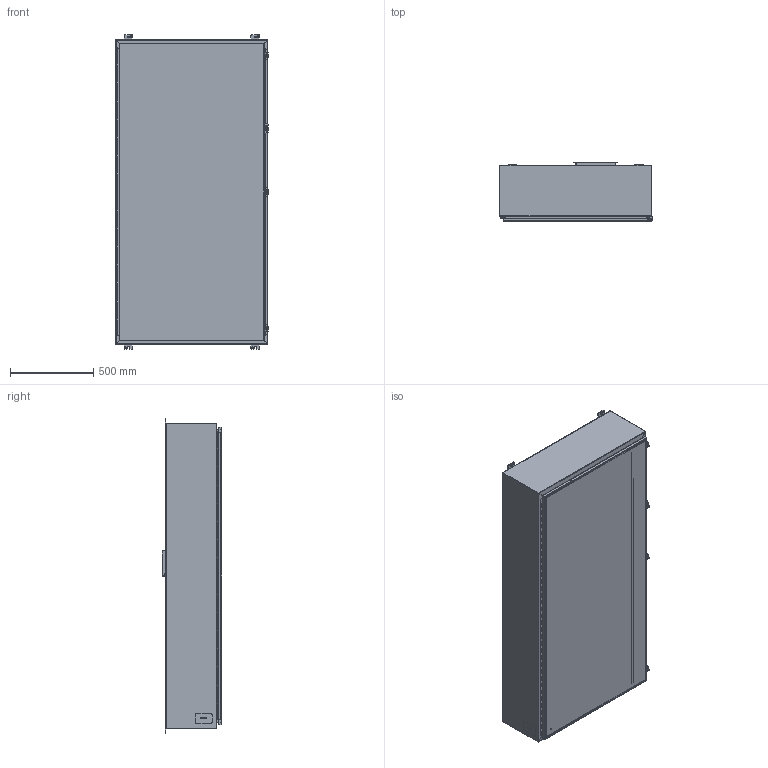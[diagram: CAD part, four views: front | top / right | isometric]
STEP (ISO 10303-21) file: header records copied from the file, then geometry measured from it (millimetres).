
FILE_DESCRIPTION(/* description */ ('Unknown'),/* implementation_level */ '2;1');
FILE_NAME(/* name */ '1418V12LP',/* time_stamp */ '2026-02-20T16:38:37-05:00',/* author */ ('Unknown'),/* organization */ ('Unknown'),/* preprocessor_version */ 'ST-DEVELOPER v18.104',/* originating_system */ 'Solid Edge',/* authorisation */ 'Unknown');
FILE_SCHEMA (('AUTOMOTIVE_DESIGN {1 0 10303 214 3 1 1}'));
Length unit declared in the file: millimetre
Products named in the file (32): 1418V12LP; STD26094; STD21878; COM42780; AKT90223; SPR20265; SCC19011; WAF25035; COM42667; COM40153-1; COM71781-2; COM40153-2; COM53845-5; COM70219_oa_0; PNT11078; COM54746-68; COM48506; FET07710; BUL10020; QLB30109; PKT99; COM52067-1; KIT90256; LAB30005; NTS165305; NTS16535; KIT90521; WAF25059; NTS166105; QLB20254; COM71680-1
Assembly tree (48 placements, depth 3):
  1418V12LP
    STD26094  x8
    STD21878
    COM42780  x3
    AKT90223  x3
      SPR20265
      SCC19011
      WAF25035
      COM42667
    COM40153-1
    COM71781-2
      COM40153-2
      COM71781-2
      STD21878
      COM53845-5
      COM70219_oa_0
      PNT11078
      COM54746-68
    COM48506
    FET07710  x4
    BUL10020
    QLB30109
    PKT99
    COM52067-1  x2
    KIT90256
      LAB30005
      NTS165305
      NTS16535
    KIT90521
      WAF25059
      NTS166105
    QLB20254
    PNT11078
    COM71680-1
Bounding box: 917.58 x 358.77 x 1885.95 mm (x, y, z)
Volume: 10481623.2 mm3; surface area: 11502472.4 mm2
Topology: 48 solids, 49 shells, 1748 faces, 4566 edges, 2978 vertices
Faces by surface type: plane 1081, cylinder 534, bspline 69, torus 34, cone 28, sphere 2
Full cylindrical faces by diameter (mm): 2.54 x1, 3.175 x1, 4.976 x1, 5.41 x3, 6.198 x3, 6.35 x3, 6.731 x3, 7.137 x2, 7.722 x12, 7.805 x1, 7.938 x4, 8.382 x8, 9.525 x8, 9.906 x3, 11.113 x4, 11.303 x1, 12.7 x3, 16.51 x8, 25.4 x1, 88.9 x1
Entity records: 43188 total; most frequent: CARTESIAN_POINT 11941, ORIENTED_EDGE 6374, DIRECTION 6053, EDGE_CURVE 3187, VERTEX_POINT 2102, LINE 2045, VECTOR 2045, AXIS2_PLACEMENT_3D 2004
